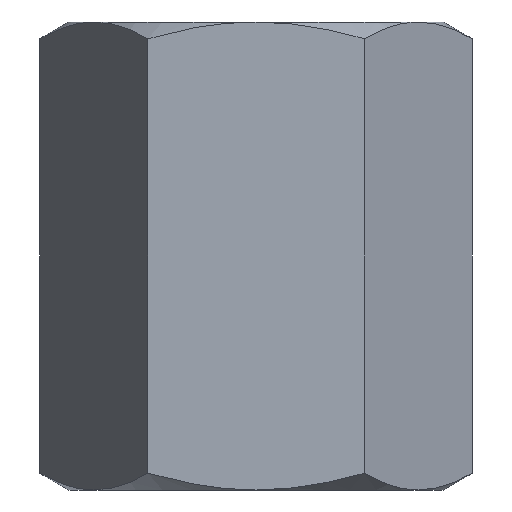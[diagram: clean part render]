
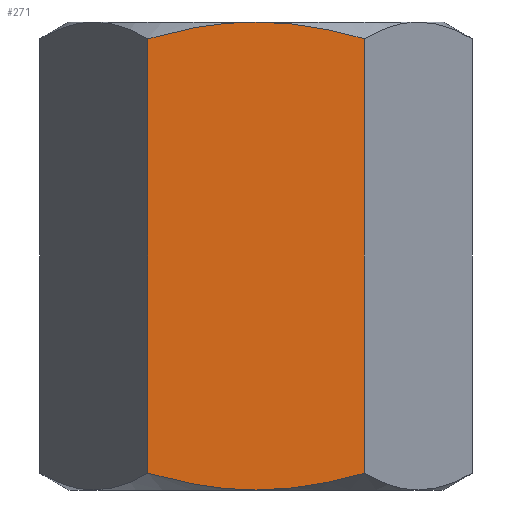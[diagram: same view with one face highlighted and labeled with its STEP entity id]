
A CAD part, front view. The second image highlights one B-rep face of the part: STEP entity #271.
In plain terms, the highlighted planar face has unit normal (0, -1, 0).
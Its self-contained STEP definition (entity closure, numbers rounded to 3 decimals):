
#23 = CARTESIAN_POINT ( 'NONE',  ( 0.388, -4., 5. ) ) ;
#50 = B_SPLINE_CURVE_WITH_KNOTS ( 'NONE', 3,
 ( #798, #107, #441, #711, #123, #518 ),
 .UNSPECIFIED., .F., .F.,
 ( 4, 2, 4 ),
 ( 0.01, 0.011, 0.013 ),
 .UNSPECIFIED. ) ;
#59 = CARTESIAN_POINT ( 'NONE',  ( -1.557, -4., -4.841 ) ) ;
#71 = CARTESIAN_POINT ( 'NONE',  ( 0., -4., -5. ) ) ;
#107 = CARTESIAN_POINT ( 'NONE',  ( -1.933, -4., 4.751 ) ) ;
#119 = EDGE_CURVE ( 'NONE', #519, #852, #569, .T. ) ;
#123 = CARTESIAN_POINT ( 'NONE',  ( -0.389, -4., 5. ) ) ;
#125 = VERTEX_POINT ( 'NONE', #774 ) ;
#135 = CARTESIAN_POINT ( 'NONE',  ( 0., -4., -5. ) ) ;
#138 = FACE_OUTER_BOUND ( 'NONE', #429, .T. ) ;
#152 = CARTESIAN_POINT ( 'NONE',  ( 2.309, -4., 4.643 ) ) ;
#158 = CARTESIAN_POINT ( 'NONE',  ( 0.781, -4., 4.966 ) ) ;
#178 = ORIENTED_EDGE ( 'NONE', *, *, #578, .T. ) ;
#198 = LINE ( 'NONE', #730, #870 ) ;
#228 = CARTESIAN_POINT ( 'NONE',  ( -2.309, -4., 4.643 ) ) ;
#271 = ADVANCED_FACE ( 'NONE', ( #138 ), #809, .T. ) ;
#277 = CARTESIAN_POINT ( 'NONE',  ( -0.785, -4., -4.966 ) ) ;
#283 = CARTESIAN_POINT ( 'NONE',  ( -2.309, -4., -4.643 ) ) ;
#286 = VERTEX_POINT ( 'NONE', #135 ) ;
#290 = VERTEX_POINT ( 'NONE', #577 ) ;
#292 = CARTESIAN_POINT ( 'NONE',  ( 0., -4., 5. ) ) ;
#302 = DIRECTION ( 'NONE',  ( 0., 0., 1. ) ) ;
#305 = ORIENTED_EDGE ( 'NONE', *, *, #309, .T. ) ;
#309 = EDGE_CURVE ( 'NONE', #125, #290, #198, .T. ) ;
#368 = ORIENTED_EDGE ( 'NONE', *, *, #710, .F. ) ;
#387 = CARTESIAN_POINT ( 'NONE',  ( 2.309, -4., -4.643 ) ) ;
#401 = EDGE_CURVE ( 'NONE', #852, #735, #50, .T. ) ;
#409 = CARTESIAN_POINT ( 'NONE',  ( -1.935, -4., -4.751 ) ) ;
#429 = EDGE_LOOP ( 'NONE', ( #814, #674, #178, #717, #305, #368 ) ) ;
#441 = CARTESIAN_POINT ( 'NONE',  ( -1.547, -4., 4.842 ) ) ;
#451 = CARTESIAN_POINT ( 'NONE',  ( 0.785, -4., -5. ) ) ;
#454 = CARTESIAN_POINT ( 'NONE',  ( 0., -4., -5. ) ) ;
#465 = CARTESIAN_POINT ( 'NONE',  ( -2.309, -4., -5. ) ) ;
#505 = EDGE_CURVE ( 'NONE', #286, #125, #828, .T. ) ;
#511 = CARTESIAN_POINT ( 'NONE',  ( -2.309, -4., -5. ) ) ;
#512 = CARTESIAN_POINT ( 'NONE',  ( 1.552, -4., -4.861 ) ) ;
#518 = CARTESIAN_POINT ( 'NONE',  ( 0., -4., 5. ) ) ;
#519 = VERTEX_POINT ( 'NONE', #751 ) ;
#542 = DIRECTION ( 'NONE',  ( 0., -1., 0. ) ) ;
#569 = LINE ( 'NONE', #511, #824 ) ;
#577 = CARTESIAN_POINT ( 'NONE',  ( 2.309, -4., 4.643 ) ) ;
#578 = EDGE_CURVE ( 'NONE', #519, #286, #698, .T. ) ;
#618 = CARTESIAN_POINT ( 'NONE',  ( 1.936, -4., 4.751 ) ) ;
#674 = ORIENTED_EDGE ( 'NONE', *, *, #119, .F. ) ;
#678 = CARTESIAN_POINT ( 'NONE',  ( -0.389, -4., -5. ) ) ;
#698 = B_SPLINE_CURVE_WITH_KNOTS ( 'NONE', 3,
 ( #283, #409, #59, #277, #678, #71 ),
 .UNSPECIFIED., .F., .F.,
 ( 4, 2, 4 ),
 ( 0.007, 0.008, 0.009 ),
 .UNSPECIFIED. ) ;
#708 = AXIS2_PLACEMENT_3D ( 'NONE', #465, #542, #871 ) ;
#710 = EDGE_CURVE ( 'NONE', #735, #290, #721, .T. ) ;
#711 = CARTESIAN_POINT ( 'NONE',  ( -0.776, -4., 4.967 ) ) ;
#717 = ORIENTED_EDGE ( 'NONE', *, *, #505, .T. ) ;
#721 = B_SPLINE_CURVE_WITH_KNOTS ( 'NONE', 3,
 ( #769, #23, #158, #756, #618, #152 ),
 .UNSPECIFIED., .F., .F.,
 ( 4, 2, 4 ),
 ( 0.013, 0.014, 0.015 ),
 .UNSPECIFIED. ) ;
#730 = CARTESIAN_POINT ( 'NONE',  ( 2.309, -4., -5. ) ) ;
#735 = VERTEX_POINT ( 'NONE', #292 ) ;
#743 = DIRECTION ( 'NONE',  ( 0., 0., 1. ) ) ;
#751 = CARTESIAN_POINT ( 'NONE',  ( -2.309, -4., -4.643 ) ) ;
#756 = CARTESIAN_POINT ( 'NONE',  ( 1.557, -4., 4.841 ) ) ;
#769 = CARTESIAN_POINT ( 'NONE',  ( 0., -4., 5. ) ) ;
#774 = CARTESIAN_POINT ( 'NONE',  ( 2.309, -4., -4.643 ) ) ;
#798 = CARTESIAN_POINT ( 'NONE',  ( -2.309, -4., 4.643 ) ) ;
#809 = PLANE ( 'NONE',  #708 ) ;
#814 = ORIENTED_EDGE ( 'NONE', *, *, #401, .F. ) ;
#824 = VECTOR ( 'NONE', #302, 1000. ) ;
#828 = B_SPLINE_CURVE_WITH_KNOTS ( 'NONE', 3,
 ( #454, #451, #512, #387 ),
 .UNSPECIFIED., .F., .F.,
 ( 4, 4 ),
 ( 0.009, 0.012 ),
 .UNSPECIFIED. ) ;
#852 = VERTEX_POINT ( 'NONE', #228 ) ;
#870 = VECTOR ( 'NONE', #743, 1000. ) ;
#871 = DIRECTION ( 'NONE',  ( 0., 0., -1. ) ) ;
